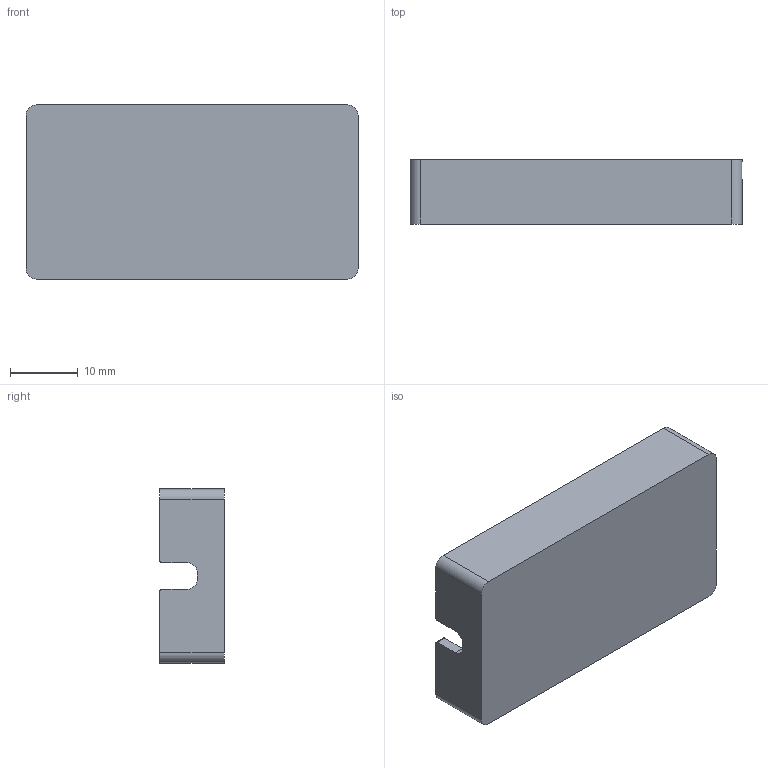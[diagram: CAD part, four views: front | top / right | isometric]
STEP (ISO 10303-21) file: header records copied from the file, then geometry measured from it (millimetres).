
FILE_DESCRIPTION (( 'STEP AP214' ), '1' );
FILE_NAME ('Tapa PP58.STEP', '2017-12-04T12:09:21', ( 'aaa' ), ( '' ), 'SwSTEP 2.0', 'SolidWorks 2013', '' );
FILE_SCHEMA (( 'AUTOMOTIVE_DESIGN' ));
Length unit declared in the file: millimetre
Products named in the file (1): Tapa PP58
Bounding box: 49 x 9.5 x 25.7 mm (x, y, z)
Volume: 3779.5 mm3; surface area: 5605 mm2
Topology: 1 solids, 1 shells, 58 faces, 150 edges, 100 vertices
Faces by surface type: plane 32, cylinder 26
Entity records: 1820 total; most frequent: DIRECTION 320, CARTESIAN_POINT 309, ORIENTED_EDGE 300, EDGE_CURVE 150, AXIS2_PLACEMENT_3D 111, VERTEX_POINT 100, VECTOR 98, LINE 98
